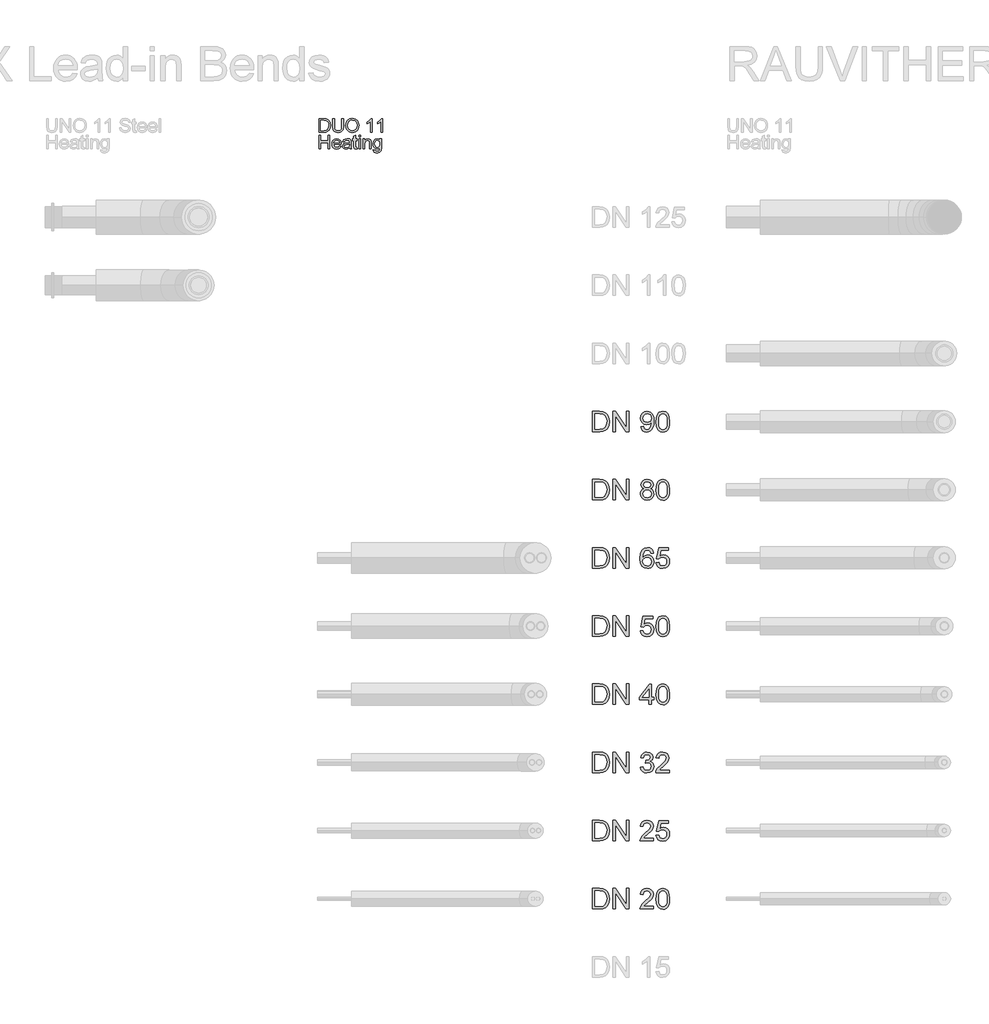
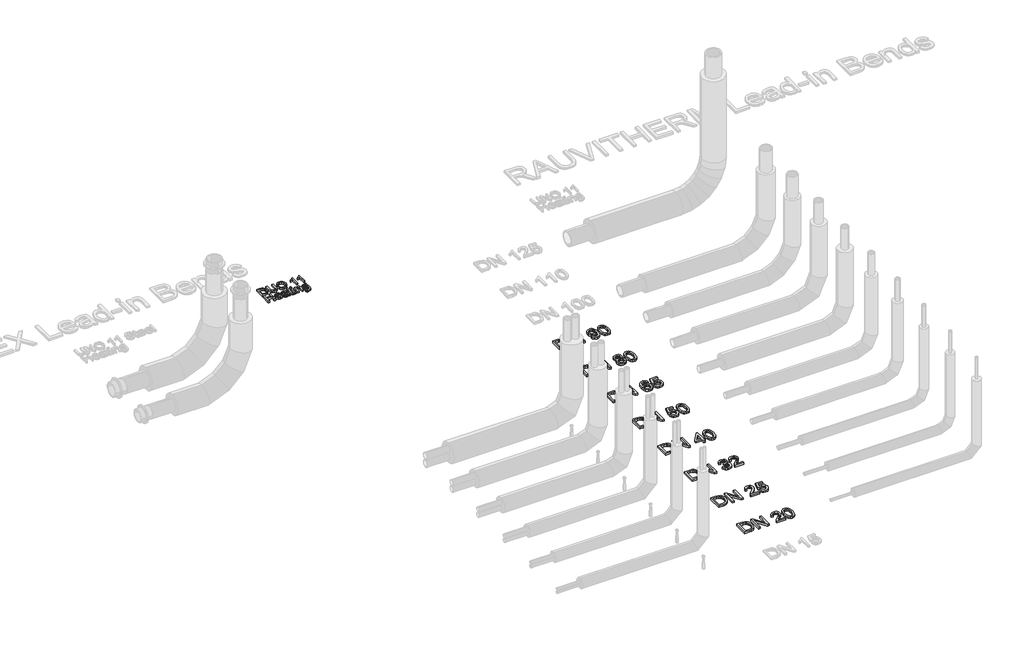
# One storey, part 41 of 44: 9 proxies.
"""IFC4 building model written with IfcOpenShell, lengths in millimetres."""

from ifc_helpers import new_model, si_unit, origin, origin_with_axes, place, context, project, spatial, polyline, outline, extrude, element, save

model = new_model("IFC4")

# Units and contexts
model_context = context("Model", 3, world=origin())
ifc_project = project(units=[si_unit("LENGTHUNIT", "METRE", prefix="MILLI")], contexts=[model_context])

# Site, building, storey
site = spatial("IfcSite", under=ifc_project)
building = spatial("IfcBuilding", under=site)
storey = spatial("IfcBuildingStorey", under=building, Name="REHAU Starting view", Elevation=0.0)

# Proxies
placement = place(None, origin())
element("IfcBuildingElementProxy", 1, Name="100", ObjectType="100", at=placement, inside=storey, context=model_context, shape_type="SweptSolid", body=[
    extrude(outline(polyline([(38010.9874089, 6121.9748178), (38010.9874089, 6222.431128), (38045.6418929, 6222.431128), (38063.5700088, 6220.9841255), (38078.3343395, 6213.7981638), (38090.2291907, 6196.6303374), (38094.1777908, 6172.7425332), (38091.5045149, 6152.4722352), (38084.6373844, 6137.8427946), (38075.4648599, 6128.7315838), (38063.4596442, 6123.6916005), (38047.3096246, 6121.9748178), (38010.9874089, 6121.9748178)]), holes=[polyline([(38023.5444477, 6134.5318566), (38045.7645202, 6134.5318566), (38061.9268025, 6136.3467411), (38071.2464797, 6141.4725636), (38078.8861625, 6153.9437632), (38081.620752, 6172.9387369), (38080.2810484, 6186.6239471), (38076.2619376, 6196.7284393), (38063.2266522, 6207.863001), (38045.4211637, 6209.8740892), (38023.5444477, 6209.8740892), (38023.5444477, 6134.5318566)])]), origin_with_axes(), (0.0, 0.0, 1.0), 20.0),
    extrude(outline(polyline([(38177.3681726, 6222.431128), (38189.9252114, 6222.431128), (38189.9252114, 6164.477451), (38186.5161716, 6140.4547567), (38174.2289129, 6125.9847316), (38163.9650053, 6121.8000739), (38150.9297199, 6120.405188), (38127.9861461, 6125.2612303), (38120.3464634, 6131.2055902), (38115.2574291, 6139.3265853), (38111.4437191, 6164.477451), (38111.4437191, 6222.431128), (38124.0007578, 6222.431128), (38124.0007578, 6164.9189094), (38126.4778299, 6145.7767829), (38134.9881668, 6136.2976902), (38149.7524975, 6132.9622268), (38162.5241341, 6134.6115644), (38171.0160768, 6139.5595772), (38175.7801487, 6149.1980855), (38177.3681726, 6164.9189094), (38177.3681726, 6222.431128)])), origin_with_axes(), (0.0, 0.0, 1.0), 20.0),
    extrude(outline(polyline([(38207.1911397, 6170.8785977), (38210.5388658, 6193.0925389), (38220.5820443, 6209.8986147), (38235.9165921, 6220.4752221), (38255.1384264, 6224.0007578), (38268.3147332, 6222.3452889), (38280.1298766, 6217.3788819), (38289.9400631, 6209.4510249), (38297.1014993, 6198.9112058), (38301.479295, 6186.2683279), (38302.9385603, 6172.0312947), (38301.402653, 6157.6041891), (38296.794931, 6144.7835015), (38289.369846, 6134.2252883), (38279.3818499, 6126.5856055), (38267.667874, 6121.9502924), (38255.06485, 6120.405188), (38241.6862081, 6122.1127736), (38229.8036197, 6127.2355304), (38220.0179586, 6135.3105402), (38212.9300988, 6145.8748848), (38207.1911397, 6170.8785977)]), holes=[polyline([(38219.7481785, 6170.7559704), (38222.2589731, 6155.0412778), (38229.7913569, 6143.0667189), (38241.1129253, 6135.4883498), (38254.9912736, 6132.9622268), (38269.071957, 6135.5128753), (38280.4119195, 6143.1648208), (38287.889121, 6155.5072617), (38290.3815215, 6172.1293965), (38286.1140904, 6192.8534156), (38273.6428907, 6206.575414), (38255.2120028, 6211.4437191), (38241.7046022, 6209.0984714), (38230.2205526, 6202.0627282), (38222.366272, 6189.5455433), (38219.7481785, 6170.7559704)])]), origin_with_axes(), (0.0, 0.0, 1.0), 20.0),
    extrude(outline(polyline([(38401.8252406, 6121.9748178), (38389.2682018, 6121.9748178), (38389.2682018, 6200.2601064), (38377.3733507, 6191.7865578), (38364.1541243, 6185.4467247), (38364.1541243, 6197.3170505), (38382.5604868, 6209.0647488), (38393.7318367, 6222.431128), (38401.8252406, 6222.431128), (38401.8252406, 6121.9748178)])), origin_with_axes(), (0.0, 0.0, 1.0), 20.0),
    extrude(outline(polyline([(38478.7371031, 6121.9748178), (38466.1800643, 6121.9748178), (38466.1800643, 6200.2601064), (38454.2852131, 6191.7865578), (38441.0659868, 6185.4467247), (38441.0659868, 6197.3170505), (38459.4723492, 6209.0647488), (38470.6436992, 6222.431128), (38478.7371031, 6222.431128), (38478.7371031, 6121.9748178)])), origin_with_axes(), (0.0, 0.0, 1.0), 20.0),
    extrude(outline(polyline([(38010.9874089, 6000.0), (38010.9874089, 6100.4563101), (38023.5444477, 6100.4563101), (38023.5444477, 6059.6459342), (38076.9118625, 6059.6459342), (38076.9118625, 6100.4563101), (38089.4689012, 6100.4563101), (38089.4689012, 6000.0), (38076.9118625, 6000.0), (38076.9118625, 6047.0888954), (38023.5444477, 6047.0888954), (38023.5444477, 6000.0), (38010.9874089, 6000.0)])), origin_with_axes(), (0.0, 0.0, 1.0), 20.0),
    extrude(outline(polyline([(38161.5247213, 6021.9748178), (38173.8365055, 6020.405188), (38169.4004617, 6011.1284304), (38162.321799, 6004.1938547), (38152.7599328, 5999.8712413), (38140.8742787, 5998.4303702), (38126.1406048, 6000.9166393), (38114.803708, 6008.3754468), (38107.5748268, 6020.3224146), (38105.1651997, 6036.2731647), (38107.5993522, 6052.7604095), (38114.9018098, 6065.0905877), (38126.0854225, 6072.7793214), (38140.1630402, 6075.3422326), (38153.8022651, 6072.7854527), (38164.7007692, 6065.1151131), (38171.846877, 6052.8094604), (38174.2289129, 6036.3467411), (38174.1553365, 6032.9622268), (38117.7222385, 6032.9622268), (38119.8958079, 6023.5628418), (38124.9449883, 6016.6527916), (38132.2321175, 6012.4037546), (38141.1195333, 6010.9874089), (38153.4313175, 6013.6116338), (38161.5247213, 6021.9748178)]), holes=[polyline([(38117.7222385, 6045.5192655), (38161.6718741, 6045.5192655), (38156.6441535, 6056.8990819), (38149.3233018, 6061.3136659), (38140.1139892, 6062.7851938), (38124.6506827, 6058.088567), (38119.7854433, 6052.5979283), (38117.7222385, 6045.5192655)])]), origin_with_axes(), (0.0, 0.0, 1.0), 20.0),
    extrude(outline(polyline([(38233.8748471, 6009.4177791), (38221.697953, 6000.9074423), (38208.2457347, 5998.4303702), (38197.7519008, 5999.9202922), (38190.0110505, 6004.3900585), (38185.2377816, 6011.1774813), (38183.646692, 6019.6203731), (38186.0501877, 6029.5531869), (38192.3654953, 6036.7636741), (38201.157875, 6040.8839524), (38212.0226566, 6042.7724133), (38233.8012707, 6047.0888954), (38233.8748471, 6049.8847985), (38230.4167563, 6059.1554248), (38216.5353424, 6062.7851938), (38203.8311508, 6060.3694354), (38197.7733606, 6051.7977849), (38185.2163218, 6053.3674148), (38190.6487126, 6065.6301479), (38201.5870706, 6072.8161096), (38218.1540231, 6075.3422326), (38233.372075, 6073.1104152), (38241.968251, 6067.5063461), (38245.8187492, 6058.9837466), (38246.4318858, 6047.9963376), (38246.4318858, 6032.3736156), (38247.069548, 6010.5582133), (38249.5711455, 6000.0), (38237.0141068, 6000.0), (38233.8748471, 6009.4177791)]), holes=[polyline([(38233.8748471, 6034.5318566), (38213.6168119, 6030.6813584), (38202.8133439, 6028.6457447), (38197.9205134, 6025.3348067), (38196.2037308, 6020.5032899), (38199.9438644, 6013.7097357), (38210.9190106, 6010.9874089), (38223.6232021, 6013.9917785), (38231.8147079, 6021.2635793), (38233.8012707, 6030.975664), (38233.8748471, 6034.5318566)])]), origin_with_axes(), (0.0, 0.0, 1.0), 20.0),
    extrude(outline(polyline([(38290.3815215, 6010.4723741), (38291.9511514, 5999.632118), (38282.5578978, 5998.4303702), (38272.0364727, 6000.5150348), (38266.7880229, 6005.9842138), (38265.267444, 6020.2335097), (38265.267444, 6061.215564), (38255.8496649, 6061.215564), (38255.8496649, 6073.7726028), (38265.267444, 6073.7726028), (38265.267444, 6091.7007187), (38277.8244828, 6099.082884), (38277.8244828, 6073.7726028), (38290.3815215, 6073.7726028), (38290.3815215, 6061.215564), (38277.8244828, 6061.215564), (38277.8244828, 6020.6013917), (38278.4866703, 6014.1266686), (38280.6326487, 6011.8335375), (38284.9123425, 6010.9874089), (38290.3815215, 6010.4723741)])), origin_with_axes(), (0.0, 0.0, 1.0), 20.0),
    extrude(outline(polyline([(38302.9385603, 6087.8992714), (38302.9385603, 6100.4563101), (38315.4955991, 6100.4563101), (38315.4955991, 6087.8992714), (38302.9385603, 6087.8992714)])), origin_with_axes(), (0.0, 0.0, 1.0), 20.0),
    extrude(outline(polyline([(38302.9385603, 6000.0), (38302.9385603, 6073.7726028), (38315.4955991, 6073.7726028), (38315.4955991, 6000.0), (38302.9385603, 6000.0)])), origin_with_axes(), (0.0, 0.0, 1.0), 20.0),
    extrude(outline(polyline([(38334.3311572, 6000.0), (38334.3311572, 6073.7726028), (38346.888196, 6073.7726028), (38346.888196, 6063.4719069), (38356.4899161, 6072.3746512), (38369.5987778, 6075.3422326), (38381.4568408, 6072.9509996), (38389.5502447, 6066.6724803), (38393.3149038, 6057.4386422), (38393.9770914, 6045.2985363), (38393.9770914, 6000.0), (38381.4200526, 6000.0), (38381.4200526, 6043.6062792), (38379.9730501, 6054.7163154), (38374.8594904, 6060.5901646), (38366.2387889, 6062.7851938), (38352.6148924, 6057.8555751), (38348.3198701, 6050.712533), (38346.888196, 6039.1426443), (38346.888196, 6000.0), (38334.3311572, 6000.0)])), origin_with_axes(), (0.0, 0.0, 1.0), 20.0),
    extrude(outline(polyline([(38408.10376, 5993.7214806), (38420.6607988, 5992.1518508), (38424.7320262, 5985.5299749), (38436.9211829, 5982.7340717), (38449.7725273, 5985.8978569), (38455.9038939, 5994.7760757), (38456.7622852, 6009.4177791), (38447.9208546, 6002.3544448), (38437.1419121, 6000.0), (38424.1955316, 6002.7407209), (38414.5416949, 6010.9628835), (38408.5360213, 6023.0171502), (38406.5341301, 6037.2541834), (38410.127111, 6056.7151409), (38420.5259087, 6070.4861903), (38436.5287755, 6075.3422326), (38447.7307822, 6072.5953804), (38456.7622852, 6064.3548237), (38456.7622852, 6073.7726028), (38469.319324, 6073.7726028), (38469.319324, 6010.0799667), (38465.8857587, 5985.6893904), (38455.0087144, 5974.3463622), (38436.6759283, 5970.1770329), (38424.9926092, 5971.6454952), (38415.7924937, 5976.0508821), (38409.8910533, 5983.4054563), (38408.10376, 5993.7214806)]), holes=[polyline([(38419.0911689, 6038.1125747), (38420.4308725, 6026.5948026), (38424.4499833, 6018.6761426), (38430.4924451, 6014.0868147), (38437.9022016, 6012.5570388), (38445.2567758, 6014.0776177), (38451.3298944, 6018.6393544), (38455.4041875, 6026.4568468), (38456.7622852, 6037.7446927), (38455.3643336, 6048.6309341), (38451.1704789, 6056.4698863), (38445.0084555, 6061.2063669), (38437.7059979, 6062.7851938), (38430.5353646, 6061.2308924), (38424.5235597, 6056.5679881), (38420.4492666, 6048.8455319), (38419.0911689, 6038.1125747)])]), origin_with_axes(), (0.0, 0.0, 1.0), 20.0),
])
element("IfcBuildingElementProxy", 2, Name="150", ObjectType="150", at=placement, inside=storey, context=model_context, shape_type="SweptSolid", body=[
    extrude(outline(polyline([(40016.4811134, 425.0), (40016.4811134, 575.6844652), (40068.4628393, 575.6844652), (40095.3550131, 573.5139615), (40117.5015093, 562.735019), (40127.9217668, 551.2571007), (40135.343786, 536.9832793), (40139.7859611, 520.1894663), (40141.2666861, 501.151573), (40137.2567724, 470.7461261), (40126.9560765, 448.8019651), (40113.1972899, 435.135149), (40095.1894663, 427.575174), (40070.9644369, 425.0), (40016.4811134, 425.0)]), holes=[polyline([(40035.3166715, 443.8355582), (40068.6467803, 443.8355582), (40092.8902038, 446.5578849), (40106.8697196, 454.2466186), (40118.3292437, 472.9534181), (40122.431128, 501.4458786), (40120.4215726, 521.9736939), (40114.3929064, 537.1304321), (40105.4855636, 547.5414926), (40094.8399784, 553.8322747), (40068.1317455, 556.8489071), (40035.3166715, 556.8489071), (40035.3166715, 443.8355582)])]), origin_with_axes(), (0.0, 0.0, 1.0), 20.0),
    extrude(outline(polyline([(40167.1655786, 425.0), (40167.1655786, 575.6844652), (40187.3255119, 575.6844652), (40266.0522589, 456.3067578), (40266.0522589, 575.6844652), (40284.8878171, 575.6844652), (40284.8878171, 425.0), (40264.7278837, 425.0), (40186.0011368, 544.4144956), (40186.0011368, 425.0), (40167.1655786, 425.0)])), origin_with_axes(), (0.0, 0.0, 1.0), 20.0),
    extrude(outline(polyline([(40466.1800643, 443.8355582), (40466.1800643, 425.0), (40367.293384, 425.0), (40369.316735, 437.9862344), (40380.757865, 457.9806209), (40404.3391009, 479.8144173), (40436.8598693, 511.1947515), (40442.9575133, 522.0104821), (40444.9900614, 532.5319072), (40443.0724765, 541.9634818), (40437.3197218, 549.8039669), (40428.4767583, 555.087672), (40417.2885471, 556.8489071), (40405.5393159, 555.1290587), (40396.4112439, 549.9695138), (40390.5205335, 541.7749423), (40388.4833869, 530.9500146), (40369.6478288, 533.3044594), (40374.214164, 551.5238152), (40384.0871971, 564.8319464), (40398.7518931, 572.9713355), (40417.6932173, 575.6844652), (40436.7724973, 572.6678329), (40451.4096022, 563.6179358), (40460.7216152, 550.0982725), (40463.8256195, 533.6723414), (40460.4778934, 515.8116705), (40449.349463, 497.3439944), (40422.3653187, 471.5370724), (40400.6970691, 453.4188841), (40392.1989951, 443.8355582), (40466.1800643, 443.8355582)])), origin_with_axes(), (0.0, 0.0, 1.0), 20.0),
    extrude(outline(polyline([(40485.0156224, 499.128222), (40486.3997784, 523.2474853), (40490.5522465, 542.4831152), (40497.4316398, 557.1294171), (40506.9965717, 567.4806967), (40519.31602, 573.6335231), (40534.4589626, 575.6844652), (40556.4583059, 570.8284229), (40571.6518323, 556.830513), (40580.4810002, 534.5368641), (40583.9023027, 499.128222), (40582.5319423, 475.1469145), (40578.420861, 455.9572699), (40571.5828544, 441.2971724), (40562.0317181, 430.904506), (40549.6846787, 424.7102929), (40534.4589626, 422.6455552), (40514.8876404, 426.2324047), (40500.0252078, 436.992953), (40488.7680188, 462.4779783), (40485.0156224, 499.128222)]), holes=[polyline([(40503.8511806, 499.1650102), (40506.0584726, 469.536714), (40512.6803485, 452.3888145), (40522.5395859, 444.2080387), (40534.4589626, 441.4811134), (40546.3783392, 444.2172357), (40556.2375767, 452.4256027), (40562.8594526, 469.5826993), (40565.0667446, 499.1650102), (40562.933029, 528.1265203), (40556.5318823, 545.407777), (40546.6910389, 553.9886246), (40534.2382334, 556.8489071), (40522.4476155, 554.3289154), (40512.9746541, 546.7689404), (40506.132049, 528.4116288), (40503.8511806, 499.1650102)])]), origin_with_axes(), (0.0, 0.0, 1.0), 20.0),
])
element("IfcBuildingElementProxy", 3, Name="150", ObjectType="150", at=placement, inside=storey, context=model_context, shape_type="SweptSolid", body=[
    extrude(outline(polyline([(40016.4811134, 925.0), (40016.4811134, 1075.6844652), (40068.4628393, 1075.6844652), (40095.3550131, 1073.5139615), (40117.5015093, 1062.735019), (40127.9217668, 1051.2571007), (40135.343786, 1036.9832793), (40139.7859611, 1020.1894663), (40141.2666861, 1001.151573), (40137.2567724, 970.7461261), (40126.9560765, 948.8019651), (40113.1972899, 935.135149), (40095.1894663, 927.575174), (40070.9644369, 925.0), (40016.4811134, 925.0)]), holes=[polyline([(40035.3166715, 943.8355582), (40068.6467803, 943.8355582), (40092.8902038, 946.5578849), (40106.8697196, 954.2466186), (40118.3292437, 972.9534181), (40122.431128, 1001.4458786), (40120.4215726, 1021.9736939), (40114.3929064, 1037.1304321), (40105.4855636, 1047.5414926), (40094.8399784, 1053.8322747), (40068.1317455, 1056.8489071), (40035.3166715, 1056.8489071), (40035.3166715, 943.8355582)])]), origin_with_axes(), (0.0, 0.0, 1.0), 20.0),
    extrude(outline(polyline([(40167.1655786, 925.0), (40167.1655786, 1075.6844652), (40187.3255119, 1075.6844652), (40266.0522589, 956.3067578), (40266.0522589, 1075.6844652), (40284.8878171, 1075.6844652), (40284.8878171, 925.0), (40264.7278837, 925.0), (40186.0011368, 1044.4144956), (40186.0011368, 925.0), (40167.1655786, 925.0)])), origin_with_axes(), (0.0, 0.0, 1.0), 20.0),
    extrude(outline(polyline([(40466.1800643, 943.8355582), (40466.1800643, 925.0), (40367.293384, 925.0), (40369.316735, 937.9862344), (40380.757865, 957.9806209), (40404.3391009, 979.8144173), (40436.8598693, 1011.1947515), (40442.9575133, 1022.0104821), (40444.9900614, 1032.5319072), (40443.0724765, 1041.9634818), (40437.3197218, 1049.8039669), (40428.4767583, 1055.087672), (40417.2885471, 1056.8489071), (40405.5393159, 1055.1290587), (40396.4112439, 1049.9695138), (40390.5205335, 1041.7749423), (40388.4833869, 1030.9500146), (40369.6478288, 1033.3044594), (40374.214164, 1051.5238152), (40384.0871971, 1064.8319464), (40398.7518931, 1072.9713355), (40417.6932173, 1075.6844652), (40436.7724973, 1072.6678329), (40451.4096022, 1063.6179358), (40460.7216152, 1050.0982725), (40463.8256195, 1033.6723414), (40460.4778934, 1015.8116705), (40449.349463, 997.3439944), (40422.3653187, 971.5370724), (40400.6970691, 953.4188841), (40392.1989951, 943.8355582), (40466.1800643, 943.8355582)])), origin_with_axes(), (0.0, 0.0, 1.0), 20.0),
    extrude(outline(polyline([(40485.0156224, 965.0255611), (40503.8511806, 967.3800058), (40507.3092713, 956.072233), (40513.3425361, 947.9742306), (40521.9233836, 943.1043927), (40533.0242228, 941.4811134), (40546.525492, 943.7389891), (40556.6422469, 950.5126164), (40562.9606202, 961.0202459), (40565.0667446, 974.4801284), (40563.0939774, 987.1536631), (40557.1756758, 996.8473537), (40547.2658545, 1003.00018), (40533.3185284, 1005.0511222), (40516.7822327, 1001.7769724), (40506.2056254, 993.2788983), (40487.3700672, 995.6333431), (40503.8511806, 1073.3300205), (40576.8389684, 1073.3300205), (40576.8389684, 1054.4944623), (40519.0814952, 1054.4944623), (40511.0248795, 1012.9973732), (40524.4801635, 1021.1643535), (40538.5792409, 1023.8866803), (40556.1777959, 1020.511363), (40570.7873096, 1010.3854111), (40580.6235545, 994.9527614), (40583.9023027, 975.6573507), (40580.9500497, 956.8217926), (40572.0932907, 940.7085612), (40555.1339307, 927.1613067), (40532.9506464, 922.6455552), (40514.4507806, 925.5472245), (40499.7125081, 934.2522322), (40489.6095489, 947.7489029), (40485.0156224, 965.0255611)])), origin_with_axes(), (0.0, 0.0, 1.0), 20.0),
])
element("IfcBuildingElementProxy", 4, Name="150", ObjectType="150", at=placement, inside=storey, context=model_context, shape_type="SweptSolid", body=[
    extrude(outline(polyline([(40016.4811134, 1425.0), (40016.4811134, 1575.6844652), (40068.4628393, 1575.6844652), (40095.3550131, 1573.5139615), (40117.5015093, 1562.735019), (40127.9217668, 1551.2571007), (40135.343786, 1536.9832793), (40139.7859611, 1520.1894663), (40141.2666861, 1501.151573), (40137.2567724, 1470.7461261), (40126.9560765, 1448.8019651), (40113.1972899, 1435.135149), (40095.1894663, 1427.575174), (40070.9644369, 1425.0), (40016.4811134, 1425.0)]), holes=[polyline([(40035.3166715, 1443.8355582), (40068.6467803, 1443.8355582), (40092.8902038, 1446.5578849), (40106.8697196, 1454.2466186), (40118.3292437, 1472.9534181), (40122.431128, 1501.4458786), (40120.4215726, 1521.9736939), (40114.3929064, 1537.1304321), (40105.4855636, 1547.5414926), (40094.8399784, 1553.8322747), (40068.1317455, 1556.8489071), (40035.3166715, 1556.8489071), (40035.3166715, 1443.8355582)])]), origin_with_axes(), (0.0, 0.0, 1.0), 20.0),
    extrude(outline(polyline([(40167.1655786, 1425.0), (40167.1655786, 1575.6844652), (40187.3255119, 1575.6844652), (40266.0522589, 1456.3067578), (40266.0522589, 1575.6844652), (40284.8878171, 1575.6844652), (40284.8878171, 1425.0), (40264.7278837, 1425.0), (40186.0011368, 1544.4144956), (40186.0011368, 1425.0), (40167.1655786, 1425.0)])), origin_with_axes(), (0.0, 0.0, 1.0), 20.0),
    extrude(outline(polyline([(40369.6478288, 1465.0255611), (40388.4833869, 1467.3800058), (40392.7002343, 1455.5434026), (40398.8760533, 1447.5511663), (40407.3143465, 1442.9986266), (40418.3186167, 1441.4811134), (40431.2312747, 1443.5688437), (40441.2008768, 1449.8320347), (40447.5744324, 1459.1762374), (40449.6989509, 1470.5070028), (40447.5928265, 1481.2629526), (40441.2744532, 1489.9863544), (40431.7095213, 1495.7667003), (40419.8637211, 1497.6934822), (40406.6567575, 1495.6333431), (40408.7536848, 1514.4689012), (40411.7703172, 1514.248172), (40433.1442611, 1519.6560374), (40440.2627777, 1526.5170366), (40442.6356166, 1536.2843035), (40440.9157683, 1544.4190942), (40435.7562233, 1551.0179774), (40427.8835486, 1555.3911747), (40418.0243111, 1556.8489071), (40408.1466795, 1555.3773791), (40400.0716698, 1550.9627951), (40394.1763608, 1543.6051552), (40390.8378317, 1533.3044594), (40372.0022735, 1535.6589041), (40377.5480946, 1552.5722789), (40387.4165291, 1565.1998284), (40400.9177983, 1573.063306), (40417.3621235, 1575.6844652), (40440.0788367, 1570.5157232), (40455.9713389, 1556.3890546), (40461.4711747, 1537.3879495), (40456.2472504, 1520.0239194), (40440.7962066, 1507.5527197), (40452.5868246, 1502.7886479), (40461.324022, 1494.6768499), (40466.7318873, 1483.6587841), (40468.5345091, 1470.175909), (40464.9292655, 1451.8185974), (40454.1135348, 1436.4779182), (40437.7887713, 1426.103646), (40417.6564291, 1422.6455552), (40399.4462704, 1425.5978082), (40384.620626, 1434.4545673), (40374.310733, 1448.0018217), (40369.6478288, 1465.0255611)])), origin_with_axes(), (0.0, 0.0, 1.0), 20.0),
    extrude(outline(polyline([(40581.547858, 1443.8355582), (40581.547858, 1425.0), (40482.6611777, 1425.0), (40484.6845286, 1437.9862344), (40496.1256587, 1457.9806209), (40519.7068946, 1479.8144173), (40552.227663, 1511.1947515), (40558.325307, 1522.0104821), (40560.3578551, 1532.5319072), (40558.4402702, 1541.9634818), (40552.6875155, 1549.8039669), (40543.844552, 1555.087672), (40532.6563408, 1556.8489071), (40520.9071096, 1555.1290587), (40511.7790376, 1549.9695138), (40505.8883271, 1541.7749423), (40503.8511806, 1530.9500146), (40485.0156224, 1533.3044594), (40489.5819577, 1551.5238152), (40499.4549908, 1564.8319464), (40514.1196868, 1572.9713355), (40533.061011, 1575.6844652), (40552.140291, 1572.6678329), (40566.7773959, 1563.6179358), (40576.0894089, 1550.0982725), (40579.1934132, 1533.6723414), (40575.8456871, 1515.8116705), (40564.7172567, 1497.3439944), (40537.7331123, 1471.5370724), (40516.0648628, 1453.4188841), (40507.5667887, 1443.8355582), (40581.547858, 1443.8355582)])), origin_with_axes(), (0.0, 0.0, 1.0), 20.0),
])
element("IfcBuildingElementProxy", 5, Name="150", ObjectType="150", at=placement, inside=storey, context=model_context, shape_type="SweptSolid", body=[
    extrude(outline(polyline([(40016.4811134, 1925.0), (40016.4811134, 2075.6844652), (40068.4628393, 2075.6844652), (40095.3550131, 2073.5139615), (40117.5015093, 2062.735019), (40127.9217668, 2051.2571007), (40135.343786, 2036.9832793), (40139.7859611, 2020.1894663), (40141.2666861, 2001.151573), (40137.2567724, 1970.7461261), (40126.9560765, 1948.8019651), (40113.1972899, 1935.135149), (40095.1894663, 1927.575174), (40070.9644369, 1925.0), (40016.4811134, 1925.0)]), holes=[polyline([(40035.3166715, 1943.8355582), (40068.6467803, 1943.8355582), (40092.8902038, 1946.5578849), (40106.8697196, 1954.2466186), (40118.3292437, 1972.9534181), (40122.431128, 2001.4458786), (40120.4215726, 2021.9736939), (40114.3929064, 2037.1304321), (40105.4855636, 2047.5414926), (40094.8399784, 2053.8322747), (40068.1317455, 2056.8489071), (40035.3166715, 2056.8489071), (40035.3166715, 1943.8355582)])]), origin_with_axes(), (0.0, 0.0, 1.0), 20.0),
    extrude(outline(polyline([(40167.1655786, 1925.0), (40167.1655786, 2075.6844652), (40187.3255119, 2075.6844652), (40266.0522589, 1956.3067578), (40266.0522589, 2075.6844652), (40284.8878171, 2075.6844652), (40284.8878171, 1925.0), (40264.7278837, 1925.0), (40186.0011368, 2044.4144956), (40186.0011368, 1925.0), (40167.1655786, 1925.0)])), origin_with_axes(), (0.0, 0.0, 1.0), 20.0),
    extrude(outline(polyline([(40430.8633928, 1925.0), (40430.8633928, 1960.3166715), (40362.5844944, 1960.3166715), (40362.5844944, 1979.1522297), (40435.5722823, 2073.3300205), (40449.6989509, 2073.3300205), (40449.6989509, 1979.1522297), (40468.5345091, 1979.1522297), (40468.5345091, 1960.3166715), (40449.6989509, 1960.3166715), (40449.6989509, 1925.0), (40430.8633928, 1925.0)]), holes=[polyline([(40430.8633928, 1979.1522297), (40430.8633928, 2037.3511613), (40385.7610601, 1979.1522297), (40430.8633928, 1979.1522297)])]), origin_with_axes(), (0.0, 0.0, 1.0), 20.0),
    extrude(outline(polyline([(40485.0156224, 1999.128222), (40486.3997784, 2023.2474853), (40490.5522465, 2042.4831152), (40497.4316398, 2057.1294171), (40506.9965717, 2067.4806967), (40519.31602, 2073.6335231), (40534.4589626, 2075.6844652), (40556.4583059, 2070.8284229), (40571.6518323, 2056.830513), (40580.4810002, 2034.5368641), (40583.9023027, 1999.128222), (40582.5319423, 1975.1469145), (40578.420861, 1955.9572699), (40571.5828544, 1941.2971724), (40562.0317181, 1930.904506), (40549.6846787, 1924.7102929), (40534.4589626, 1922.6455552), (40514.8876404, 1926.2324047), (40500.0252078, 1936.992953), (40488.7680188, 1962.4779783), (40485.0156224, 1999.128222)]), holes=[polyline([(40503.8511806, 1999.1650102), (40506.0584726, 1969.536714), (40512.6803485, 1952.3888145), (40522.5395859, 1944.2080387), (40534.4589626, 1941.4811134), (40546.3783392, 1944.2172357), (40556.2375767, 1952.4256027), (40562.8594526, 1969.5826993), (40565.0667446, 1999.1650102), (40562.933029, 2028.1265203), (40556.5318823, 2045.407777), (40546.6910389, 2053.9886246), (40534.2382334, 2056.8489071), (40522.4476155, 2054.3289154), (40512.9746541, 2046.7689404), (40506.132049, 2028.4116288), (40503.8511806, 1999.1650102)])]), origin_with_axes(), (0.0, 0.0, 1.0), 20.0),
])
element("IfcBuildingElementProxy", 6, Name="150", ObjectType="150", at=placement, inside=storey, context=model_context, shape_type="SweptSolid", body=[
    extrude(outline(polyline([(40016.4811134, 2425.0), (40016.4811134, 2575.6844652), (40068.4628393, 2575.6844652), (40095.3550131, 2573.5139615), (40117.5015093, 2562.735019), (40127.9217668, 2551.2571007), (40135.343786, 2536.9832793), (40139.7859611, 2520.1894663), (40141.2666861, 2501.151573), (40137.2567724, 2470.7461261), (40126.9560765, 2448.8019651), (40113.1972899, 2435.135149), (40095.1894663, 2427.575174), (40070.9644369, 2425.0), (40016.4811134, 2425.0)]), holes=[polyline([(40035.3166715, 2443.8355582), (40068.6467803, 2443.8355582), (40092.8902038, 2446.5578849), (40106.8697196, 2454.2466186), (40118.3292437, 2472.9534181), (40122.431128, 2501.4458786), (40120.4215726, 2521.9736939), (40114.3929064, 2537.1304321), (40105.4855636, 2547.5414926), (40094.8399784, 2553.8322747), (40068.1317455, 2556.8489071), (40035.3166715, 2556.8489071), (40035.3166715, 2443.8355582)])]), origin_with_axes(), (0.0, 0.0, 1.0), 20.0),
    extrude(outline(polyline([(40167.1655786, 2425.0), (40167.1655786, 2575.6844652), (40187.3255119, 2575.6844652), (40266.0522589, 2456.3067578), (40266.0522589, 2575.6844652), (40284.8878171, 2575.6844652), (40284.8878171, 2425.0), (40264.7278837, 2425.0), (40186.0011368, 2544.4144956), (40186.0011368, 2425.0), (40167.1655786, 2425.0)])), origin_with_axes(), (0.0, 0.0, 1.0), 20.0),
    extrude(outline(polyline([(40369.6478288, 2465.0255611), (40388.4833869, 2467.3800058), (40391.9414777, 2456.072233), (40397.9747424, 2447.9742306), (40406.5555899, 2443.1043927), (40417.6564291, 2441.4811134), (40431.1576983, 2443.7389891), (40441.2744532, 2450.5126164), (40447.5928265, 2461.0202459), (40449.6989509, 2474.4801284), (40447.7261837, 2487.1536631), (40441.8078821, 2496.8473537), (40431.8980609, 2503.00018), (40417.9507347, 2505.0511222), (40401.414439, 2501.7769724), (40390.8378317, 2493.2788983), (40372.0022735, 2495.6333431), (40388.4833869, 2573.3300205), (40461.4711747, 2573.3300205), (40461.4711747, 2554.4944623), (40403.7137015, 2554.4944623), (40395.6570858, 2512.9973732), (40409.1123698, 2521.1643535), (40423.2114473, 2523.8866803), (40440.8100022, 2520.511363), (40455.4195159, 2510.3854111), (40465.2557608, 2494.9527614), (40468.5345091, 2475.6573507), (40465.582256, 2456.8217926), (40456.725497, 2440.7085612), (40439.766137, 2427.1613067), (40417.5828527, 2422.6455552), (40399.0829869, 2425.5472245), (40384.3447145, 2434.2522322), (40374.2417552, 2447.7489029), (40369.6478288, 2465.0255611)])), origin_with_axes(), (0.0, 0.0, 1.0), 20.0),
    extrude(outline(polyline([(40485.0156224, 2499.128222), (40486.3997784, 2523.2474853), (40490.5522465, 2542.4831152), (40497.4316398, 2557.1294171), (40506.9965717, 2567.4806967), (40519.31602, 2573.6335231), (40534.4589626, 2575.6844652), (40556.4583059, 2570.8284229), (40571.6518323, 2556.830513), (40580.4810002, 2534.5368641), (40583.9023027, 2499.128222), (40582.5319423, 2475.1469145), (40578.420861, 2455.9572699), (40571.5828544, 2441.2971724), (40562.0317181, 2430.904506), (40549.6846787, 2424.7102929), (40534.4589626, 2422.6455552), (40514.8876404, 2426.2324047), (40500.0252078, 2436.992953), (40488.7680188, 2462.4779783), (40485.0156224, 2499.128222)]), holes=[polyline([(40503.8511806, 2499.1650102), (40506.0584726, 2469.536714), (40512.6803485, 2452.3888145), (40522.5395859, 2444.2080387), (40534.4589626, 2441.4811134), (40546.3783392, 2444.2172357), (40556.2375767, 2452.4256027), (40562.8594526, 2469.5826993), (40565.0667446, 2499.1650102), (40562.933029, 2528.1265203), (40556.5318823, 2545.407777), (40546.6910389, 2553.9886246), (40534.2382334, 2556.8489071), (40522.4476155, 2554.3289154), (40512.9746541, 2546.7689404), (40506.132049, 2528.4116288), (40503.8511806, 2499.1650102)])]), origin_with_axes(), (0.0, 0.0, 1.0), 20.0),
])
element("IfcBuildingElementProxy", 7, Name="150", ObjectType="150", at=placement, inside=storey, context=model_context, shape_type="SweptSolid", body=[
    extrude(outline(polyline([(40016.4811134, 2925.0), (40016.4811134, 3075.6844652), (40068.4628393, 3075.6844652), (40095.3550131, 3073.5139615), (40117.5015093, 3062.735019), (40127.9217668, 3051.2571007), (40135.343786, 3036.9832793), (40139.7859611, 3020.1894663), (40141.2666861, 3001.151573), (40137.2567724, 2970.7461261), (40126.9560765, 2948.8019651), (40113.1972899, 2935.135149), (40095.1894663, 2927.575174), (40070.9644369, 2925.0), (40016.4811134, 2925.0)]), holes=[polyline([(40035.3166715, 2943.8355582), (40068.6467803, 2943.8355582), (40092.8902038, 2946.5578849), (40106.8697196, 2954.2466186), (40118.3292437, 2972.9534181), (40122.431128, 3001.4458786), (40120.4215726, 3021.9736939), (40114.3929064, 3037.1304321), (40105.4855636, 3047.5414926), (40094.8399784, 3053.8322747), (40068.1317455, 3056.8489071), (40035.3166715, 3056.8489071), (40035.3166715, 2943.8355582)])]), origin_with_axes(), (0.0, 0.0, 1.0), 20.0),
    extrude(outline(polyline([(40167.1655786, 2925.0), (40167.1655786, 3075.6844652), (40187.3255119, 3075.6844652), (40266.0522589, 2956.3067578), (40266.0522589, 3075.6844652), (40284.8878171, 3075.6844652), (40284.8878171, 2925.0), (40264.7278837, 2925.0), (40186.0011368, 3044.4144956), (40186.0011368, 2925.0), (40167.1655786, 2925.0)])), origin_with_axes(), (0.0, 0.0, 1.0), 20.0),
    extrude(outline(polyline([(40466.1800643, 3035.6589041), (40447.3445061, 3033.3044594), (40440.2075954, 3049.0130206), (40431.6635361, 3054.8899354), (40421.3352491, 3056.8489071), (40404.3391009, 3052.2871703), (40391.4816252, 3035.1622635), (40387.5774775, 3021.1321639), (40386.1289421, 3001.5930314), (40402.7388142, 3016.6210109), (40423.3218118, 3021.5322355), (40440.7226302, 3018.1753123), (40455.3275454, 3008.1045427), (40465.2327682, 2992.7178783), (40468.5345091, 2973.4132706), (40466.9802076, 2959.9257969), (40462.3173033, 2947.4224076), (40454.9320723, 2936.8182091), (40445.2107906, 2929.0283078), (40433.5949166, 2924.2412434), (40420.5259087, 2922.6455552), (40399.1565633, 2926.8761982), (40382.1374225, 2939.568127), (40371.0043936, 2961.9721405), (40367.293384, 2995.3390375), (40371.4136623, 3032.8538039), (40383.7744974, 3058.504376), (40400.6510839, 3071.3894429), (40422.5124715, 3075.6844652), (40439.0395701, 3073.0265178), (40452.2741249, 3065.0526756), (40461.5447511, 3052.3883379), (40466.1800643, 3035.6589041)]), holes=[polyline([(40386.1289421, 2973.7075762), (40390.4883438, 2957.3920097), (40402.0766266, 2945.5462094), (40419.0543807, 2941.4811134), (40431.4841936, 2943.5872378), (40441.2560591, 2949.9056111), (40447.588228, 2959.8384249), (40449.6989509, 2972.7878712), (40447.6158191, 2985.2176841), (40441.3664237, 2994.695244), (40431.4290113, 3000.696319), (40418.2818285, 3002.6966774), (40405.8704097, 3000.696319), (40395.4915389, 2994.695244), (40388.4695913, 2985.4476103), (40386.1289421, 2973.7075762)])]), origin_with_axes(), (0.0, 0.0, 1.0), 20.0),
    extrude(outline(polyline([(40485.0156224, 2965.0255611), (40503.8511806, 2967.3800058), (40507.3092713, 2956.072233), (40513.3425361, 2947.9742306), (40521.9233836, 2943.1043927), (40533.0242228, 2941.4811134), (40546.525492, 2943.7389891), (40556.6422469, 2950.5126164), (40562.9606202, 2961.0202459), (40565.0667446, 2974.4801284), (40563.0939774, 2987.1536631), (40557.1756758, 2996.8473537), (40547.2658545, 3003.00018), (40533.3185284, 3005.0511222), (40516.7822327, 3001.7769724), (40506.2056254, 2993.2788983), (40487.3700672, 2995.6333431), (40503.8511806, 3073.3300205), (40576.8389684, 3073.3300205), (40576.8389684, 3054.4944623), (40519.0814952, 3054.4944623), (40511.0248795, 3012.9973732), (40524.4801635, 3021.1643535), (40538.5792409, 3023.8866803), (40556.1777959, 3020.511363), (40570.7873096, 3010.3854111), (40580.6235545, 2994.9527614), (40583.9023027, 2975.6573507), (40580.9500497, 2956.8217926), (40572.0932907, 2940.7085612), (40555.1339307, 2927.1613067), (40532.9506464, 2922.6455552), (40514.4507806, 2925.5472245), (40499.7125081, 2934.2522322), (40489.6095489, 2947.7489029), (40485.0156224, 2965.0255611)])), origin_with_axes(), (0.0, 0.0, 1.0), 20.0),
])
element("IfcBuildingElementProxy", 8, Name="150", ObjectType="150", at=placement, inside=storey, context=model_context, shape_type="SweptSolid", body=[
    extrude(outline(polyline([(40016.4811134, 3425.0), (40016.4811134, 3575.6844652), (40068.4628393, 3575.6844652), (40095.3550131, 3573.5139615), (40117.5015093, 3562.735019), (40127.9217668, 3551.2571007), (40135.343786, 3536.9832793), (40139.7859611, 3520.1894663), (40141.2666861, 3501.151573), (40137.2567724, 3470.7461261), (40126.9560765, 3448.8019651), (40113.1972899, 3435.135149), (40095.1894663, 3427.575174), (40070.9644369, 3425.0), (40016.4811134, 3425.0)]), holes=[polyline([(40035.3166715, 3443.8355582), (40068.6467803, 3443.8355582), (40092.8902038, 3446.5578849), (40106.8697196, 3454.2466186), (40118.3292437, 3472.9534181), (40122.431128, 3501.4458786), (40120.4215726, 3521.9736939), (40114.3929064, 3537.1304321), (40105.4855636, 3547.5414926), (40094.8399784, 3553.8322747), (40068.1317455, 3556.8489071), (40035.3166715, 3556.8489071), (40035.3166715, 3443.8355582)])]), origin_with_axes(), (0.0, 0.0, 1.0), 20.0),
    extrude(outline(polyline([(40167.1655786, 3425.0), (40167.1655786, 3575.6844652), (40187.3255119, 3575.6844652), (40266.0522589, 3456.3067578), (40266.0522589, 3575.6844652), (40284.8878171, 3575.6844652), (40284.8878171, 3425.0), (40264.7278837, 3425.0), (40186.0011368, 3544.4144956), (40186.0011368, 3425.0), (40167.1655786, 3425.0)])), origin_with_axes(), (0.0, 0.0, 1.0), 20.0),
    extrude(outline(polyline([(40397.0918256, 3507.9941781), (40379.9301305, 3519.6928256), (40374.3567183, 3537.9029843), (40377.3917448, 3552.6274612), (40386.4968241, 3564.7951582), (40400.6510839, 3572.9621385), (40418.8336515, 3575.6844652), (40437.1265837, 3572.8977591), (40451.4647845, 3564.5376408), (40460.7354108, 3552.1768057), (40463.8256195, 3537.3879495), (40458.3257837, 3519.6376433), (40441.6423352, 3507.9941781), (40453.2352166, 3502.0206942), (40461.6735098, 3493.223716), (40466.8192593, 3482.0263078), (40468.5345091, 3468.8515338), (40465.1316006, 3450.8437102), (40454.9228752, 3435.9628835), (40439.1591317, 3425.9748873), (40419.0911689, 3422.6455552), (40399.0232061, 3425.9886829), (40383.2594626, 3436.0180658), (40373.0507372, 3451.0414467), (40369.6478288, 3469.3665686), (40371.4320564, 3483.0517788), (40376.7847395, 3494.3089679), (40385.4299663, 3502.7518597), (40397.0918256, 3507.9941781)]), holes=[polyline([(40393.1922764, 3537.3511613), (40394.861541, 3529.1289987), (40399.8693347, 3522.5623051), (40408.0685046, 3518.2580858), (40419.3118981, 3516.823346), (40430.2931757, 3518.2488887), (40438.3681855, 3522.5255169), (40443.3345924, 3528.8714813), (40444.9900614, 3536.5050327), (40443.2794101, 3544.4282912), (40438.1474563, 3550.9811892), (40429.9620819, 3555.3819776), (40419.0911689, 3556.8489071), (40408.1512781, 3555.4141673), (40399.9796993, 3551.1099479), (40394.8891321, 3544.8007717), (40393.1922764, 3537.3511613)]), polyline([(40388.4833869, 3470.0287562), (40391.628778, 3455.8469053), (40402.7572083, 3445.2335097), (40419.2383217, 3441.4811134), (40432.0590092, 3443.4538806), (40441.6791234, 3449.3721822), (40447.693994, 3458.3347073), (40449.6989509, 3469.440145), (40447.6296147, 3480.7341223), (40441.421606, 3489.8943839), (40431.5807626, 3495.9644369), (40418.6129223, 3497.9877878), (40405.9715773, 3495.992028), (40396.4480321, 3490.0047485), (40390.4745482, 3481.0192308), (40388.4833869, 3470.0287562)])]), origin_with_axes(), (0.0, 0.0, 1.0), 20.0),
    extrude(outline(polyline([(40485.0156224, 3499.128222), (40486.3997784, 3523.2474853), (40490.5522465, 3542.4831152), (40497.4316398, 3557.1294171), (40506.9965717, 3567.4806967), (40519.31602, 3573.6335231), (40534.4589626, 3575.6844652), (40556.4583059, 3570.8284229), (40571.6518323, 3556.830513), (40580.4810002, 3534.5368641), (40583.9023027, 3499.128222), (40582.5319423, 3475.1469145), (40578.420861, 3455.9572699), (40571.5828544, 3441.2971724), (40562.0317181, 3430.904506), (40549.6846787, 3424.7102929), (40534.4589626, 3422.6455552), (40514.8876404, 3426.2324047), (40500.0252078, 3436.992953), (40488.7680188, 3462.4779783), (40485.0156224, 3499.128222)]), holes=[polyline([(40503.8511806, 3499.1650102), (40506.0584726, 3469.536714), (40512.6803485, 3452.3888145), (40522.5395859, 3444.2080387), (40534.4589626, 3441.4811134), (40546.3783392, 3444.2172357), (40556.2375767, 3452.4256027), (40562.8594526, 3469.5826993), (40565.0667446, 3499.1650102), (40562.933029, 3528.1265203), (40556.5318823, 3545.407777), (40546.6910389, 3553.9886246), (40534.2382334, 3556.8489071), (40522.4476155, 3554.3289154), (40512.9746541, 3546.7689404), (40506.132049, 3528.4116288), (40503.8511806, 3499.1650102)])]), origin_with_axes(), (0.0, 0.0, 1.0), 20.0),
])
element("IfcBuildingElementProxy", 9, Name="150", ObjectType="150", at=placement, inside=storey, context=model_context, shape_type="SweptSolid", body=[
    extrude(outline(polyline([(40016.4811134, 3925.0), (40016.4811134, 4075.6844652), (40068.4628393, 4075.6844652), (40095.3550131, 4073.5139615), (40117.5015093, 4062.735019), (40127.9217668, 4051.2571007), (40135.343786, 4036.9832793), (40139.7859611, 4020.1894663), (40141.2666861, 4001.151573), (40137.2567724, 3970.7461261), (40126.9560765, 3948.8019651), (40113.1972899, 3935.135149), (40095.1894663, 3927.575174), (40070.9644369, 3925.0), (40016.4811134, 3925.0)]), holes=[polyline([(40035.3166715, 3943.8355582), (40068.6467803, 3943.8355582), (40092.8902038, 3946.5578849), (40106.8697196, 3954.2466186), (40118.3292437, 3972.9534181), (40122.431128, 4001.4458786), (40120.4215726, 4021.9736939), (40114.3929064, 4037.1304321), (40105.4855636, 4047.5414926), (40094.8399784, 4053.8322747), (40068.1317455, 4056.8489071), (40035.3166715, 4056.8489071), (40035.3166715, 3943.8355582)])]), origin_with_axes(), (0.0, 0.0, 1.0), 20.0),
    extrude(outline(polyline([(40167.1655786, 3925.0), (40167.1655786, 4075.6844652), (40187.3255119, 4075.6844652), (40266.0522589, 3956.3067578), (40266.0522589, 4075.6844652), (40284.8878171, 4075.6844652), (40284.8878171, 3925.0), (40264.7278837, 3925.0), (40186.0011368, 4044.4144956), (40186.0011368, 3925.0), (40167.1655786, 3925.0)])), origin_with_axes(), (0.0, 0.0, 1.0), 20.0),
    extrude(outline(polyline([(40372.0022735, 3962.6711163), (40390.8378317, 3965.0255611), (40394.0567991, 3954.3339906), (40399.2991176, 3947.0545256), (40406.4360283, 3942.8744664), (40415.3387726, 3941.4811134), (40430.5874813, 3945.0679628), (40440.9249653, 3954.6512888), (40447.0869887, 3971.0220376), (40449.8093155, 3992.8742281), (40449.6989509, 3996.5530481), (40434.6341832, 3982.2792266), (40413.9776092, 3976.7977849), (40396.8021185, 3980.1455111), (40382.5053045, 3990.1886895), (40372.8621977, 4005.7041127), (40369.6478288, 4025.4685729), (40373.0185475, 4045.8860236), (40383.1307039, 4061.8888904), (40398.3196318, 4072.2355715), (40416.9206651, 4075.6844652), (40430.9691588, 4073.7162966), (40443.7576567, 4067.8117905), (40454.4538257, 4058.2652528), (40462.2253328, 4045.3709888), (40466.957215, 4027.5471062), (40468.5345091, 4003.2117122), (40466.9618135, 3977.4093887), (40462.2437269, 3957.4655861), (40454.421636, 3942.4789933), (40443.5369275, 3931.5482995), (40430.0586509, 3924.8712413), (40414.4558558, 3922.6455552), (40398.3518214, 3925.271313), (40385.5035427, 3933.1485862), (40376.518025, 3945.7807342), (40372.0022735, 3962.6711163)]), holes=[polyline([(40449.6989509, 4025.9100313), (40447.6664029, 4038.6755365), (40441.5687588, 4048.4979858), (40432.1049945, 4054.7611767), (40419.9740857, 4056.8489071), (40407.3925215, 4054.6002284), (40397.3125548, 4047.8541923), (40390.6906789, 4037.5305038), (40388.4833869, 4024.5488679), (40390.5711172, 4012.9100013), (40396.8343082, 4003.6715647), (40406.6659545, 3997.6428985), (40419.4590509, 3995.6333431), (40431.4933907, 3997.6428985), (40441.1824827, 4003.6715647), (40447.5698339, 4013.2502921), (40449.6989509, 4025.9100313)])]), origin_with_axes(), (0.0, 0.0, 1.0), 20.0),
    extrude(outline(polyline([(40485.0156224, 3999.128222), (40486.3997784, 4023.2474853), (40490.5522465, 4042.4831152), (40497.4316398, 4057.1294171), (40506.9965717, 4067.4806967), (40519.31602, 4073.6335231), (40534.4589626, 4075.6844652), (40556.4583059, 4070.8284229), (40571.6518323, 4056.830513), (40580.4810002, 4034.5368641), (40583.9023027, 3999.128222), (40582.5319423, 3975.1469145), (40578.420861, 3955.9572699), (40571.5828544, 3941.2971724), (40562.0317181, 3930.904506), (40549.6846787, 3924.7102929), (40534.4589626, 3922.6455552), (40514.8876404, 3926.2324047), (40500.0252078, 3936.992953), (40488.7680188, 3962.4779783), (40485.0156224, 3999.128222)]), holes=[polyline([(40503.8511806, 3999.1650102), (40506.0584726, 3969.536714), (40512.6803485, 3952.3888145), (40522.5395859, 3944.2080387), (40534.4589626, 3941.4811134), (40546.3783392, 3944.2172357), (40556.2375767, 3952.4256027), (40562.8594526, 3969.5826993), (40565.0667446, 3999.1650102), (40562.933029, 4028.1265203), (40556.5318823, 4045.407777), (40546.6910389, 4053.9886246), (40534.2382334, 4056.8489071), (40522.4476155, 4054.3289154), (40512.9746541, 4046.7689404), (40506.132049, 4028.4116288), (40503.8511806, 3999.1650102)])]), origin_with_axes(), (0.0, 0.0, 1.0), 20.0),
])

save(model, "model.ifc")
